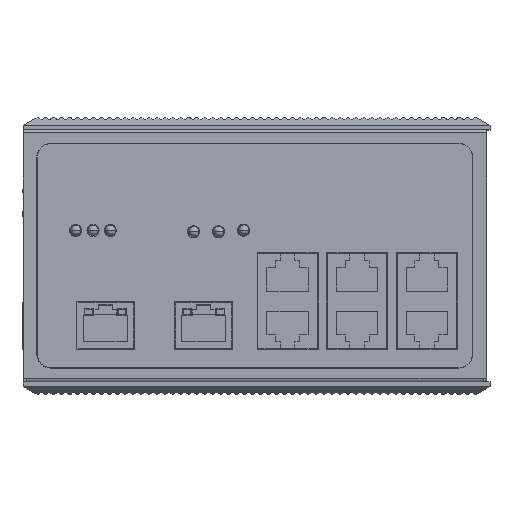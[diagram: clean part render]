
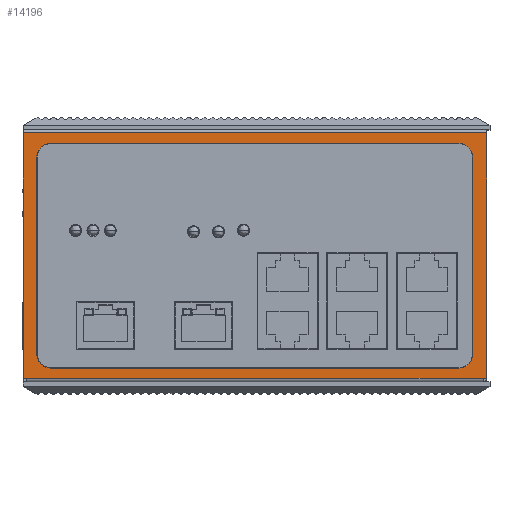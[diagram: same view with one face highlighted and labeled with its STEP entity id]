
A CAD part, top view. The second image highlights one B-rep face of the part: STEP entity #14196.
In plain terms, the highlighted planar face has unit normal (0, 0, 1).
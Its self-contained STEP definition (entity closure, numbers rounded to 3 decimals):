
#2267=DIRECTION('',(-1.,0.,0.));
#2268=VECTOR('',#2267,1.);
#2269=CARTESIAN_POINT('',(67.,0.,52.45));
#2270=LINE('',#2269,#2268);
#2275=DIRECTION('',(0.,-1.,0.));
#2276=VECTOR('',#2275,71.);
#2277=CARTESIAN_POINT('',(67.,71.,52.45));
#2278=LINE('',#2277,#2276);
#2390=DIRECTION('',(0.,1.,0.));
#2391=VECTOR('',#2390,71.);
#2392=CARTESIAN_POINT('',(-67.,0.,52.45));
#2393=LINE('',#2392,#2391);
#2398=DIRECTION('',(-1.,0.,0.));
#2399=VECTOR('',#2398,1.);
#2400=CARTESIAN_POINT('',(-66.,0.,52.45));
#2401=LINE('',#2400,#2399);
#3968=CARTESIAN_POINT('',(59.,7.,52.45));
#3969=DIRECTION('',(0.,0.,-1.));
#3970=DIRECTION('',(1.,0.,0.));
#3971=AXIS2_PLACEMENT_3D('',#3968,#3969,#3970);
#3973=DIRECTION('',(0.,-1.,0.));
#3974=VECTOR('',#3973,57.);
#3975=CARTESIAN_POINT('',(63.,64.,52.45));
#3976=LINE('',#3975,#3974);
#3977=CARTESIAN_POINT('',(59.,64.,52.45));
#3978=DIRECTION('',(0.,0.,-1.));
#3979=DIRECTION('',(0.,1.,0.));
#3980=AXIS2_PLACEMENT_3D('',#3977,#3978,#3979);
#3982=DIRECTION('',(1.,0.,0.));
#3983=VECTOR('',#3982,118.);
#3984=CARTESIAN_POINT('',(-59.,68.,52.45));
#3985=LINE('',#3984,#3983);
#3986=CARTESIAN_POINT('',(-59.,64.,52.45));
#3987=DIRECTION('',(0.,0.,-1.));
#3988=DIRECTION('',(-1.,0.,0.));
#3989=AXIS2_PLACEMENT_3D('',#3986,#3987,#3988);
#3991=DIRECTION('',(0.,1.,0.));
#3992=VECTOR('',#3991,57.);
#3993=CARTESIAN_POINT('',(-63.,7.,52.45));
#3994=LINE('',#3993,#3992);
#3995=CARTESIAN_POINT('',(-59.,7.,52.45));
#3996=DIRECTION('',(0.,0.,-1.));
#3997=DIRECTION('',(0.,-1.,0.));
#3998=AXIS2_PLACEMENT_3D('',#3995,#3996,#3997);
#4000=DIRECTION('',(-1.,0.,0.));
#4001=VECTOR('',#4000,118.);
#4002=CARTESIAN_POINT('',(59.,3.,52.45));
#4003=LINE('',#4002,#4001);
#4008=DIRECTION('',(1.,0.,0.));
#4009=VECTOR('',#4008,134.);
#4010=CARTESIAN_POINT('',(-67.,71.,52.45));
#4011=LINE('',#4010,#4009);
#4012=DIRECTION('',(-1.,0.,0.));
#4013=VECTOR('',#4012,132.);
#4014=CARTESIAN_POINT('',(66.,0.,52.45));
#4015=LINE('',#4014,#4013);
#8412=CARTESIAN_POINT('',(67.,71.,52.45));
#8413=VERTEX_POINT('',#8412);
#8414=CARTESIAN_POINT('',(67.,0.,52.45));
#8415=VERTEX_POINT('',#8414);
#8442=CARTESIAN_POINT('',(-66.,0.,52.45));
#8443=VERTEX_POINT('',#8442);
#8468=CARTESIAN_POINT('',(66.,0.,52.45));
#8469=VERTEX_POINT('',#8468);
#8542=CARTESIAN_POINT('',(-67.,0.,52.45));
#8543=VERTEX_POINT('',#8542);
#8544=CARTESIAN_POINT('',(-67.,71.,52.45));
#8545=VERTEX_POINT('',#8544);
#8753=CARTESIAN_POINT('',(63.,7.,52.45));
#8754=CARTESIAN_POINT('',(59.,3.,52.45));
#8755=VERTEX_POINT('',#8753);
#8756=VERTEX_POINT('',#8754);
#8831=CARTESIAN_POINT('',(-59.,3.,52.45));
#8832=VERTEX_POINT('',#8831);
#8833=CARTESIAN_POINT('',(63.,64.,52.45));
#8834=VERTEX_POINT('',#8833);
#8905=CARTESIAN_POINT('',(-63.,7.,52.45));
#8906=VERTEX_POINT('',#8905);
#8907=CARTESIAN_POINT('',(59.,68.,52.45));
#8908=VERTEX_POINT('',#8907);
#8976=CARTESIAN_POINT('',(-63.,64.,52.45));
#8977=VERTEX_POINT('',#8976);
#8980=CARTESIAN_POINT('',(-59.,68.,52.45));
#8981=VERTEX_POINT('',#8980);
#14171=CARTESIAN_POINT('',(-66.,0.,52.45));
#14172=DIRECTION('',(0.,0.,-1.));
#14173=DIRECTION('',(-1.,0.,0.));
#14174=AXIS2_PLACEMENT_3D('',#14171,#14172,#14173);
#14175=PLANE('',#14174);
#14176=ORIENTED_EDGE('',*,*,#12776,.T.);
#14178=ORIENTED_EDGE('',*,*,#14177,.T.);
#14179=ORIENTED_EDGE('',*,*,#12594,.T.);
#14180=ORIENTED_EDGE('',*,*,#12579,.T.);
#14182=ORIENTED_EDGE('',*,*,#14181,.T.);
#14183=ORIENTED_EDGE('',*,*,#12791,.T.);
#14184=EDGE_LOOP('',(#14176,#14178,#14179,#14180,#14182,#14183));
#14185=FACE_OUTER_BOUND('',#14184,.F.);
#14186=ORIENTED_EDGE('',*,*,#14151,.F.);
#14187=ORIENTED_EDGE('',*,*,#14164,.F.);
#14188=ORIENTED_EDGE('',*,*,#14066,.F.);
#14189=ORIENTED_EDGE('',*,*,#14081,.F.);
#14190=ORIENTED_EDGE('',*,*,#14095,.F.);
#14191=ORIENTED_EDGE('',*,*,#14109,.F.);
#14192=ORIENTED_EDGE('',*,*,#14123,.F.);
#14193=ORIENTED_EDGE('',*,*,#14137,.F.);
#14194=EDGE_LOOP('',(#14186,#14187,#14188,#14189,#14190,#14191,#14192,#14193));
#14195=FACE_BOUND('',#14194,.F.);
#14196=ADVANCED_FACE('',(#14185,#14195),#14175,.F.);
#3972=CIRCLE('',#3971,4.);
#3981=CIRCLE('',#3980,4.);
#3990=CIRCLE('',#3989,4.);
#3999=CIRCLE('',#3998,4.);
#12579=EDGE_CURVE('',#8415,#8469,#2270,.T.);
#12594=EDGE_CURVE('',#8413,#8415,#2278,.T.);
#12776=EDGE_CURVE('',#8543,#8545,#2393,.T.);
#12791=EDGE_CURVE('',#8443,#8543,#2401,.T.);
#14066=EDGE_CURVE('',#8908,#8834,#3981,.T.);
#14081=EDGE_CURVE('',#8981,#8908,#3985,.T.);
#14095=EDGE_CURVE('',#8977,#8981,#3990,.T.);
#14109=EDGE_CURVE('',#8906,#8977,#3994,.T.);
#14123=EDGE_CURVE('',#8832,#8906,#3999,.T.);
#14137=EDGE_CURVE('',#8756,#8832,#4003,.T.);
#14151=EDGE_CURVE('',#8755,#8756,#3972,.T.);
#14164=EDGE_CURVE('',#8834,#8755,#3976,.T.);
#14177=EDGE_CURVE('',#8545,#8413,#4011,.T.);
#14181=EDGE_CURVE('',#8469,#8443,#4015,.T.);
